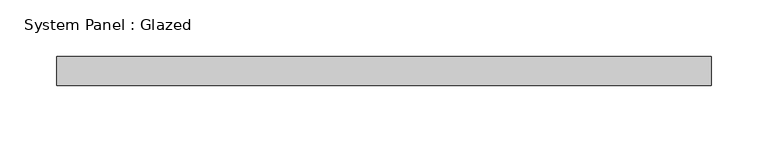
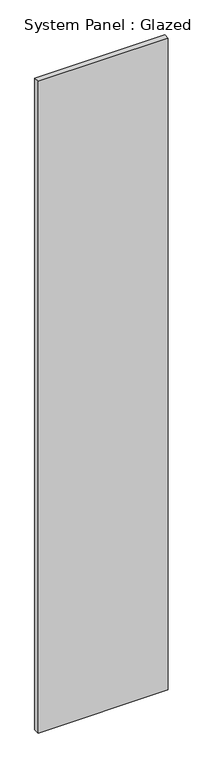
"""IFC4 building model written with IfcOpenShell, lengths in millimetres: plate geometry, System Panel : Glazed."""

import ifcopenshell
import ifcopenshell.guid

model = None  # the IFC model being written
_history = None  # IfcOwnerHistory: only IFC2X3 demands one
_inside = {}  # id of a spatial element -> (the spatial element, [elements in it])
_under = {}  # id of a project, library or spatial element -> (it, [spatial elements below it])
_declared = {}  # id of a project -> (the project, [libraries it declares])
_typed = {}  # id of a type object -> (the type object, [elements of that type])
_made_of = {}  # id of a material, layer set ... -> (it, [elements and type objects made of it])


def new_model(schema):
    """Start an empty IFC model of exactly this schema.

    Asked for "IFC4X3", IfcOpenShell would pick the latest addendum, in which some entities
    have other attributes; the version numbers below select the first issue.
    IFC2X3 requires an IfcOwnerHistory on every rooted entity: one is made here for all.
    """
    global model, _history
    if schema == "IFC4X3":
        model = ifcopenshell.file(schema_version=(4, 3, 0, 0))
    else:
        model = ifcopenshell.file(schema=schema)
    _inside.clear()
    _under.clear()
    _declared.clear()
    _typed.clear()
    _made_of.clear()
    _history = None
    if model.schema == "IFC2X3":
        org = make("IfcOrganization", Name="unknown")
        user = make(
            "IfcPersonAndOrganization",
            ThePerson=make("IfcPerson", FamilyName="unknown"),
            TheOrganization=org,
        )
        app = make(
            "IfcApplication",
            ApplicationDeveloper=org,
            Version="unknown",
            ApplicationFullName="unknown",
            ApplicationIdentifier="unknown",
        )
        _history = make(
            "IfcOwnerHistory",
            OwningUser=user,
            OwningApplication=app,
            ChangeAction="ADDED",
            CreationDate=0,
        )
    return model


def make(cls, **values):
    """One entity of the class cls with the attributes given. An attribute that is None is left unset."""
    return model.create_entity(
        cls, **{name: value for name, value in values.items() if value is not None}
    )


def rooted(cls, **values):
    """An entity with a GlobalId (a new one), such as an element, a storey or a relation."""
    return make(cls, GlobalId=ifcopenshell.guid.new(), OwnerHistory=_history, **values)


def si_unit(unit_type, name, prefix=None):
    """IfcSIUnit, for example si_unit("LENGTHUNIT", "METRE", prefix="MILLI")."""
    return make("IfcSIUnit", UnitType=unit_type, Prefix=prefix, Name=name)


def assignment(units):
    """IfcUnitAssignment: the units of a project."""
    return None if units is None else make("IfcUnitAssignment", Units=units)


def point(xyz):
    """IfcCartesianPoint."""
    return None if xyz is None else make("IfcCartesianPoint", Coordinates=xyz)


def direction(xyz):
    """IfcDirection."""
    return None if xyz is None else make("IfcDirection", DirectionRatios=xyz)


def frame(location, z_axis=None, x_axis=None):
    """IfcAxis2Placement3D, a coordinate frame: its origin and axes. An axis left out is left unset."""
    return make(
        "IfcAxis2Placement3D",
        Location=point(location),
        Axis=direction(z_axis),
        RefDirection=direction(x_axis),
    )


def origin():
    """The frame at (0, 0, 0) with its axes left unset."""
    return frame((0.0, 0.0, 0.0))


def origin_with_axes():
    """The frame at (0, 0, 0) with the z axis (0, 0, 1) and the x axis (1, 0, 0) written out."""
    return frame((0.0, 0.0, 0.0), z_axis=(0.0, 0.0, 1.0), x_axis=(1.0, 0.0, 0.0))


def place(relative_to, where):
    """IfcLocalPlacement: puts the frame where relative to a parent placement (None: the world)."""
    return make(
        "IfcLocalPlacement", PlacementRelTo=relative_to, RelativePlacement=where
    )


def context(
    kind, dimensions, precision=None, world=None, true_north=None, identifier=None
):
    """IfcGeometricRepresentationContext, for example the 3D "Model" context."""
    return make(
        "IfcGeometricRepresentationContext",
        ContextIdentifier=identifier,
        ContextType=kind,
        CoordinateSpaceDimension=dimensions,
        Precision=precision,
        WorldCoordinateSystem=world,
        TrueNorth=true_north,
    )


def project(units=None, contexts=None):
    """IfcProject with its units and contexts."""
    return rooted(
        "IfcProject",
        Name="project",
        RepresentationContexts=contexts,
        UnitsInContext=assignment(units),
    )


def spatial(cls, under=None, at=None, **own):
    """A site, building, storey or space (cls), placed at a placement, below another one or the project."""
    s = rooted(cls, ObjectPlacement=at, **own)
    if under is not None:
        _under.setdefault(under.id(), (under, []))[1].append(s)
    return s


def polyline(points):
    """IfcPolyline through the points."""
    return make("IfcPolyline", Points=[point(p) for p in points])


def outline(outer, holes=None, kind="AREA"):
    """IfcArbitraryClosedProfileDef: a profile drawn as a closed curve; with holes, ...WithVoids."""
    if holes is None:
        return make("IfcArbitraryClosedProfileDef", ProfileType=kind, OuterCurve=outer)
    return make(
        "IfcArbitraryProfileDefWithVoids",
        ProfileType=kind,
        OuterCurve=outer,
        InnerCurves=holes,
    )


def extrude(swept, where, along, depth):
    """IfcExtrudedAreaSolid: the profile swept, set in the frame where, extruded along a direction by depth."""
    return make(
        "IfcExtrudedAreaSolid",
        SweptArea=swept,
        Position=where,
        ExtrudedDirection=direction(along),
        Depth=depth,
    )


def shape(context_of_items, identifier, shape_type, items):
    """IfcShapeRepresentation: the items that make up one representation, for example the "Body"."""
    return make(
        "IfcShapeRepresentation",
        ContextOfItems=context_of_items,
        RepresentationIdentifier=identifier,
        RepresentationType=shape_type,
        Items=items,
    )


def source(mapping_origin, context_of_items, identifier, shape_type, items):
    """IfcRepresentationMap: a shape defined once, which mapped items show again and again."""
    return make(
        "IfcRepresentationMap",
        MappingOrigin=mapping_origin,
        MappedRepresentation=shape(context_of_items, identifier, shape_type, items),
    )


def transform(
    local_origin,
    x_axis=None,
    y_axis=None,
    z_axis=None,
    scale=None,
    scale2=None,
    scale3=None,
    uniform=True,
):
    """IfcCartesianTransformationOperator3D, or its non-uniform kind. x_axis, y_axis, z_axis: its Axis1, 2, 3."""
    if uniform:
        return make(
            "IfcCartesianTransformationOperator3D",
            Axis1=direction(x_axis),
            Axis2=direction(y_axis),
            LocalOrigin=point(local_origin),
            Scale=scale,
            Axis3=direction(z_axis),
        )
    return make(
        "IfcCartesianTransformationOperator3DnonUniform",
        Axis1=direction(x_axis),
        Axis2=direction(y_axis),
        LocalOrigin=point(local_origin),
        Scale=scale,
        Axis3=direction(z_axis),
        Scale2=scale2,
        Scale3=scale3,
    )


def mapped(mapping_source, mapping_target):
    """IfcMappedItem: shows the shape of a source again, moved by a transform."""
    return make(
        "IfcMappedItem", MappingSource=mapping_source, MappingTarget=mapping_target
    )


def made_of(thing, what):
    """Note that an element or type object is made of a material, layer set ...; save() writes the relation."""
    if what is not None:
        _made_of.setdefault(what.id(), (what, []))[1].append(thing)
    return thing


def element(
    cls,
    number,
    at=None,
    inside=None,
    cuts=None,
    type_object=None,
    material=None,
    context=None,
    identifier="Body",
    shape_type=None,
    held_by="IfcProductDefinitionShape",
    body=None,
    shapes=None,
    **own,
):
    """One element of the class cls, such as IfcWall. Its Tag is "e" and its number.

    at: its placement. inside: the storey or other place that contains it. cuts: it is an
    opening in that element (IfcRelVoidsElement). A single representation is given by context,
    identifier, shape_type and body (its items); several are given by shapes. held_by: the class
    of the entity that holds the representations. save() writes the other relations.
    """
    e = rooted(cls, Tag="e%d" % number, ObjectPlacement=at, **own)
    if body is not None:
        shapes = [shape(context, identifier, shape_type, body)]
    if shapes is not None:
        e.Representation = make(held_by, Representations=shapes)
    if inside is not None:
        _inside.setdefault(inside.id(), (inside, []))[1].append(e)
    if cuts is not None:
        rooted(
            "IfcRelVoidsElement", RelatingBuildingElement=cuts, RelatedOpeningElement=e
        )
    if type_object is not None:
        _typed.setdefault(type_object.id(), (type_object, []))[1].append(e)
    return made_of(e, material)


def aggregate(whole, parts):
    """IfcRelAggregates: a whole, such as a stair, and the parts it consists of."""
    return rooted("IfcRelAggregates", RelatingObject=whole, RelatedObjects=parts)


def save(model, path):
    """Write the relations noted so far, then the file.

    IfcRelAggregates (storeys below a building ...), IfcRelContainedInSpatialStructure (elements
    in a storey), IfcRelDefinesByType, IfcRelAssociatesMaterial and IfcRelDeclares: one each for
    every whole, place, type object, material and project.
    """
    for whole, parts in _under.values():
        aggregate(whole, parts)
    for where, things in _inside.values():
        rooted(
            "IfcRelContainedInSpatialStructure",
            RelatedElements=things,
            RelatingStructure=where,
        )
    for kind, things in _typed.values():
        rooted("IfcRelDefinesByType", RelatedObjects=things, RelatingType=kind)
    for what, things in _made_of.values():
        rooted("IfcRelAssociatesMaterial", RelatedObjects=things, RelatingMaterial=what)
    for by, libraries in _declared.values():
        rooted("IfcRelDeclares", RelatingContext=by, RelatedDefinitions=libraries)
    model.write(path)


def system_panel_glazed_f9cdfe77(model_context):
    return source(origin(), model_context, "Body", "SweptSolid", [
        extrude(outline(polyline([(288.0093455, -44.45), (-288.0093455, -44.45), (-288.0093455, -19.05), (288.0093455, -19.05), (288.0093455, -44.45)])), origin_with_axes(), (0.0, 0.0, 1.0), 3048.0),
    ])


if __name__ == "__main__":
    model = new_model("IFC4")
    model_context = context("Model", 3, world=origin())
    ifc_project = project(units=[si_unit("LENGTHUNIT", "METRE", prefix="MILLI")], contexts=[model_context])
    site = spatial("IfcSite", under=ifc_project)
    building = spatial("IfcBuilding", under=site)
    placement = place(None, origin())
    system_panel_glazed_shape = system_panel_glazed_f9cdfe77(model_context)
    element("IfcPlate", 1, ObjectType="System Panel : Glazed", at=placement, inside=building, context=model_context, shape_type="MappedRepresentation", body=[
        mapped(system_panel_glazed_shape, transform((0.0, 0.0, 0.0), x_axis=(1.0, 0.0, 0.0), y_axis=(0.0, 1.0, 0.0), z_axis=(0.0, 0.0, 1.0))),
    ])
    save(model, "model.ifc")
